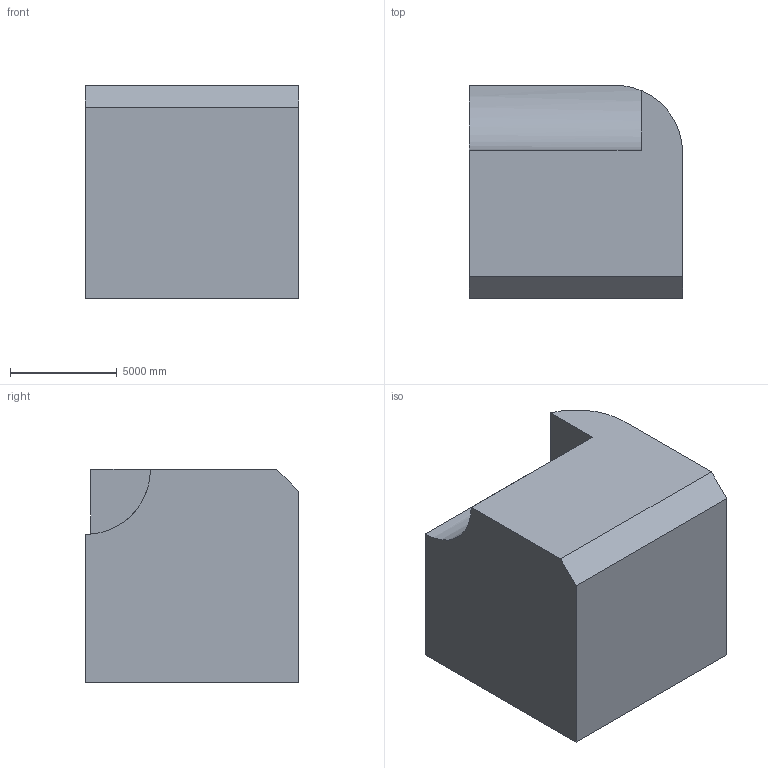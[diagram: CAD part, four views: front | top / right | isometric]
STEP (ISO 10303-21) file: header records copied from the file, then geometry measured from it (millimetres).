
FILE_DESCRIPTION (( 'STEP AP203' ), '1' );
FILE_NAME ('220.STEP', '2022-07-28T13:56:47', ( 'user' ), ( '' ), 'SwSTEP 2.0', 'SolidWorks 2021', '' );
FILE_SCHEMA (( 'CONFIG_CONTROL_DESIGN' ));
Length unit declared in the file: centimetre
Products named in the file (1): 220
Bounding box: 10000 x 10000 x 10000 mm (x, y, z)
Volume: 914256081289.8 mm3; surface area: 563466668.1 mm2
Topology: 1 solids, 1 shells, 10 faces, 24 edges, 16 vertices
Faces by surface type: plane 8, cylinder 2
Entity records: 388 total; most frequent: CARTESIAN_POINT 72, DIRECTION 49, ORIENTED_EDGE 48, EDGE_CURVE 24, VECTOR 19, LINE 19, VERTEX_POINT 16, AXIS2_PLACEMENT_3D 15
